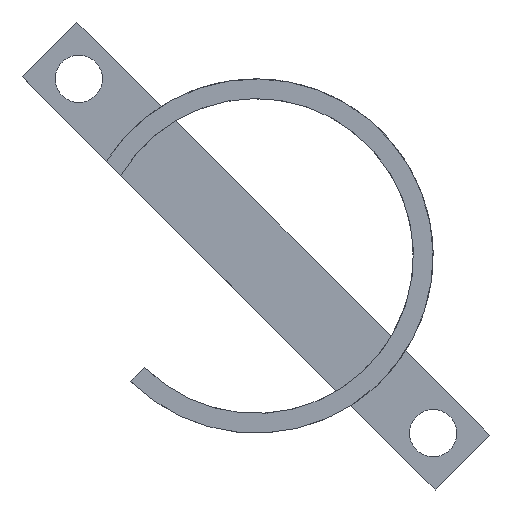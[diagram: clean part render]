
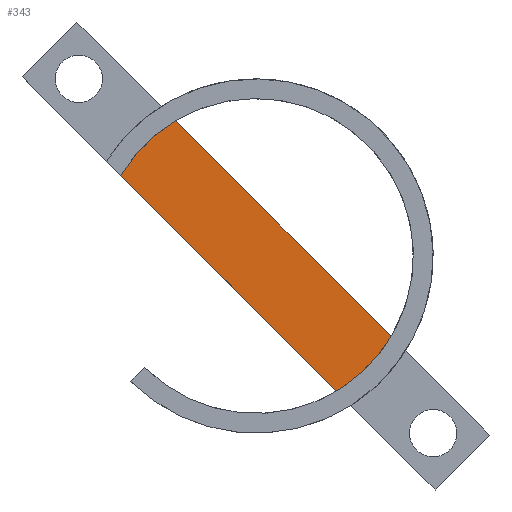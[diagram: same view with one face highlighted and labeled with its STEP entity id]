
A CAD part, front view. The second image highlights one B-rep face of the part: STEP entity #343.
In plain terms, the highlighted planar face has unit normal (0, -1, 0).
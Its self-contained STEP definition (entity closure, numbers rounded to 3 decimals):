
#33=FACE_OUTER_BOUND('',#52,.T.);
#52=EDGE_LOOP('',(#273,#274,#275,#276));
#65=CIRCLE('',#374,8.);
#67=CIRCLE('',#376,8.);
#84=LINE('',#518,#118);
#105=LINE('',#573,#139);
#118=VECTOR('',#415,10.);
#139=VECTOR('',#466,10.);
#154=VERTEX_POINT('',#515);
#155=VERTEX_POINT('',#517);
#169=VERTEX_POINT('',#552);
#172=VERTEX_POINT('',#558);
#186=EDGE_CURVE('',#154,#155,#84,.T.);
#203=EDGE_CURVE('',#169,#155,#65,.T.);
#207=EDGE_CURVE('',#154,#172,#67,.T.);
#215=EDGE_CURVE('',#169,#172,#105,.T.);
#273=ORIENTED_EDGE('',*,*,#203,.T.);
#274=ORIENTED_EDGE('',*,*,#186,.F.);
#275=ORIENTED_EDGE('',*,*,#207,.T.);
#276=ORIENTED_EDGE('',*,*,#215,.F.);
#329=PLANE('',#384);
#343=ADVANCED_FACE('',(#33),#329,.F.);
#374=AXIS2_PLACEMENT_3D('',#553,#440,#441);
#376=AXIS2_PLACEMENT_3D('',#560,#446,#447);
#384=AXIS2_PLACEMENT_3D('',#572,#464,#465);
#415=DIRECTION('',(-0.707,0.,0.707));
#440=DIRECTION('center_axis',(0.,-1.,0.));
#441=DIRECTION('ref_axis',(-1.,0.,0.));
#446=DIRECTION('center_axis',(0.,-1.,0.));
#447=DIRECTION('ref_axis',(-1.,0.,0.));
#464=DIRECTION('center_axis',(0.,1.,0.));
#465=DIRECTION('ref_axis',(-1.,0.,0.));
#466=DIRECTION('',(0.707,0.,-0.707));
#515=CARTESIAN_POINT('',(53.578,8.5,-43.551));
#517=CARTESIAN_POINT('',(42.615,8.5,-32.587));
#518=CARTESIAN_POINT('',(58.588,8.5,-48.561));
#552=CARTESIAN_POINT('',(45.408,8.5,-29.794));
#553=CARTESIAN_POINT('Origin',(49.493,8.5,-36.672));
#558=CARTESIAN_POINT('',(56.371,8.5,-40.757));
#560=CARTESIAN_POINT('Origin',(49.493,8.5,-36.672));
#572=CARTESIAN_POINT('Origin',(49.493,8.5,-36.672));
#573=CARTESIAN_POINT('',(40.398,8.5,-24.783));
